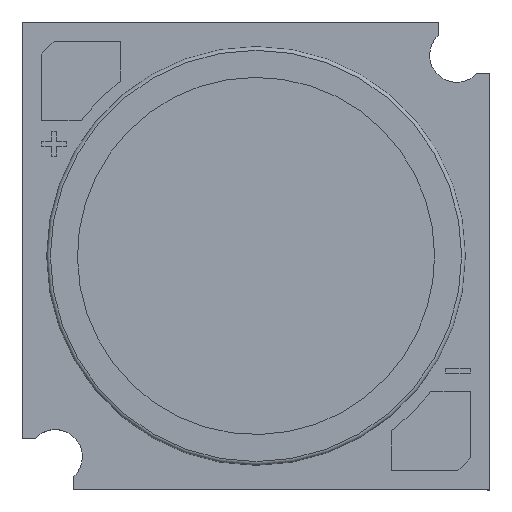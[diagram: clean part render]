
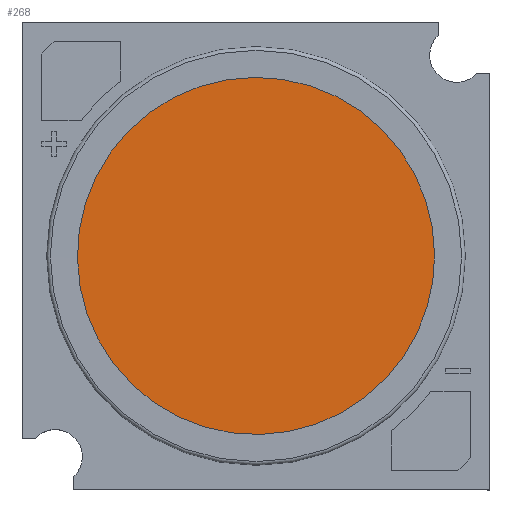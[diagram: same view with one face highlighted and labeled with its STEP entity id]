
A CAD part, top view. The second image highlights one B-rep face of the part: STEP entity #268.
In plain terms, the highlighted planar face has unit normal (0, 0, 1).
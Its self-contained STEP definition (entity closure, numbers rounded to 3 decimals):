
#144=FACE_OUTER_BOUND('',#455,.T.);
#268=ADVANCED_FACE('',(#144),#310,.T.);
#310=PLANE('',#944);
#343=B_SPLINE_CURVE_WITH_KNOTS('',3,(#1601,#1602,#1603,#1604,#1605,#1606,
#1607,#1608,#1609,#1610,#1611,#1612,#1613,#1614,#1615,#1616,#1617,#1618,
#1619,#1620,#1621,#1622,#1623,#1624,#1625),.UNSPECIFIED.,.T.,.F.,(1,3,3,
3,3,3,3,3,3,3,1),(-0.125,0.,0.125,0.25,0.375,0.5,0.625,0.75,0.875,1.,1.125),
 .UNSPECIFIED.);
#455=EDGE_LOOP('',(#691));
#691=ORIENTED_EDGE('',*,*,#889,.T.);
#771=VERTEX_POINT('',#1626);
#889=EDGE_CURVE('',#771,#771,#343,.T.);
#944=AXIS2_PLACEMENT_3D('',#1629,#1085,#1086);
#1085=DIRECTION('',(0.,0.,1.));
#1086=DIRECTION('',(1.,0.,0.));
#1601=CARTESIAN_POINT('',(7.25,0.,0.499));
#1602=CARTESIAN_POINT('',(7.25,1.922,0.499));
#1603=CARTESIAN_POINT('',(6.485,3.767,0.499));
#1604=CARTESIAN_POINT('',(5.127,5.127,0.499));
#1605=CARTESIAN_POINT('',(3.768,6.486,0.499));
#1606=CARTESIAN_POINT('',(1.922,7.25,0.499));
#1607=CARTESIAN_POINT('',(0.,7.25,0.499));
#1608=CARTESIAN_POINT('',(-1.922,7.25,0.499));
#1609=CARTESIAN_POINT('',(-3.767,6.485,0.499));
#1610=CARTESIAN_POINT('',(-5.127,5.127,0.499));
#1611=CARTESIAN_POINT('',(-6.486,3.768,0.499));
#1612=CARTESIAN_POINT('',(-7.25,1.922,0.499));
#1613=CARTESIAN_POINT('',(-7.25,0.,0.499));
#1614=CARTESIAN_POINT('',(-7.25,-1.922,0.499));
#1615=CARTESIAN_POINT('',(-6.485,-3.767,0.499));
#1616=CARTESIAN_POINT('',(-5.127,-5.127,0.499));
#1617=CARTESIAN_POINT('',(-3.768,-6.486,0.499));
#1618=CARTESIAN_POINT('',(-1.922,-7.25,0.499));
#1619=CARTESIAN_POINT('',(0.,-7.25,0.499));
#1620=CARTESIAN_POINT('',(1.922,-7.25,0.499));
#1621=CARTESIAN_POINT('',(3.767,-6.485,0.499));
#1622=CARTESIAN_POINT('',(5.127,-5.127,0.499));
#1623=CARTESIAN_POINT('',(6.486,-3.768,0.499));
#1624=CARTESIAN_POINT('',(7.25,-1.923,0.499));
#1625=CARTESIAN_POINT('',(7.25,0.,0.499));
#1626=CARTESIAN_POINT('',(7.25,0.,0.5));
#1629=CARTESIAN_POINT('',(0.,0.,0.499));
